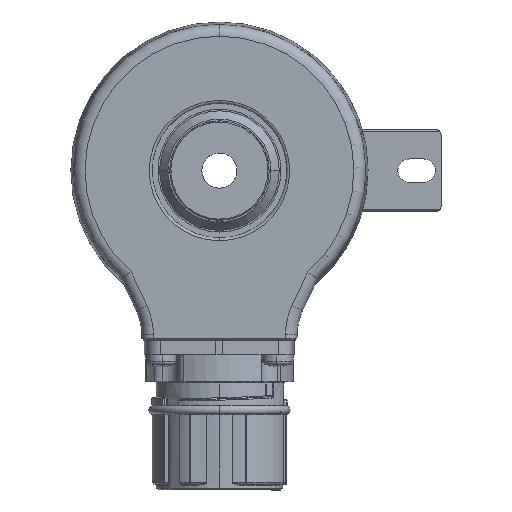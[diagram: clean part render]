
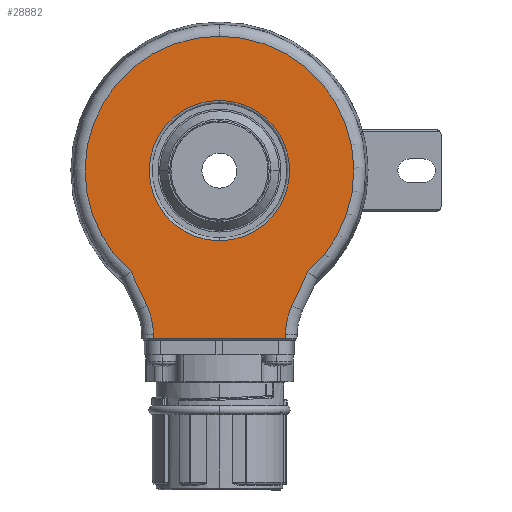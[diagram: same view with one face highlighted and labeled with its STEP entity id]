
A CAD part, left-side view. The second image highlights one B-rep face of the part: STEP entity #28882.
In plain terms, the highlighted planar face has unit normal (-1, 0, 0).
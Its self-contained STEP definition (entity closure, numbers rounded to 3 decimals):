
#15 = ORIENTED_EDGE ( 'NONE', *, *, #25581, .T. ) ;
#400 = EDGE_CURVE ( 'NONE', #38494, #48186, #31488, .T. ) ;
#973 = CARTESIAN_POINT ( 'NONE',  ( -21., -23.266, -28.183 ) ) ;
#1096 = DIRECTION ( 'NONE',  ( -1., 0., 0. ) ) ;
#1192 = EDGE_CURVE ( 'NONE', #16567, #17800, #36771, .T. ) ;
#1414 = ORIENTED_EDGE ( 'NONE', *, *, #46592, .T. ) ;
#1440 = CARTESIAN_POINT ( 'NONE',  ( -21., 12.39, -23.112 ) ) ;
#1693 = CIRCLE ( 'NONE', #46376, 22.972 ) ;
#3877 = CIRCLE ( 'NONE', #48546, 12. ) ;
#3884 = LINE ( 'NONE', #39598, #45905 ) ;
#4519 = AXIS2_PLACEMENT_3D ( 'NONE', #7194, #34069, #11064 ) ;
#4832 = DIRECTION ( 'NONE',  ( 0., 0., 1. ) ) ;
#5423 = VECTOR ( 'NONE', #9495, 1000. ) ;
#5999 = EDGE_CURVE ( 'NONE', #43744, #32332, #6132, .T. ) ;
#6132 = CIRCLE ( 'NONE', #4519, 12. ) ;
#6817 = AXIS2_PLACEMENT_3D ( 'NONE', #35812, #12839, #39676 ) ;
#7194 = CARTESIAN_POINT ( 'NONE',  ( -21., 0., 0. ) ) ;
#7618 = FACE_BOUND ( 'NONE', #13095, .T. ) ;
#8356 = ORIENTED_EDGE ( 'NONE', *, *, #27721, .T. ) ;
#8790 = CARTESIAN_POINT ( 'NONE',  ( -21., 0., -12. ) ) ;
#9201 = DIRECTION ( 'NONE',  ( 0., -0.423, 0.906 ) ) ;
#9495 = DIRECTION ( 'NONE',  ( 0., -0.017, 1. ) ) ;
#10245 = EDGE_CURVE ( 'NONE', #48186, #13479, #41906, .T. ) ;
#11064 = DIRECTION ( 'NONE',  ( 0., 0., 1. ) ) ;
#11113 = ORIENTED_EDGE ( 'NONE', *, *, #1192, .T. ) ;
#11402 = ORIENTED_EDGE ( 'NONE', *, *, #10245, .T. ) ;
#11422 = CARTESIAN_POINT ( 'NONE',  ( -21., 11.255, -28.695 ) ) ;
#12074 = CARTESIAN_POINT ( 'NONE',  ( -21., 15.091, -17.32 ) ) ;
#12839 = DIRECTION ( 'NONE',  ( 1., 0., 0. ) ) ;
#12907 = CARTESIAN_POINT ( 'NONE',  ( -21., -14.953, -17.615 ) ) ;
#13062 = CARTESIAN_POINT ( 'NONE',  ( -21., 11.268, -27.974 ) ) ;
#13095 = EDGE_LOOP ( 'NONE', ( #31130, #32549 ) ) ;
#13176 = VECTOR ( 'NONE', #9201, 1000. ) ;
#13422 = AXIS2_PLACEMENT_3D ( 'NONE', #21338, #48199, #25206 ) ;
#13479 = VERTEX_POINT ( 'NONE', #11422 ) ;
#13565 = CARTESIAN_POINT ( 'NONE',  ( -21., 0., 12. ) ) ;
#14569 = ORIENTED_EDGE ( 'NONE', *, *, #34613, .T. ) ;
#14797 = ORIENTED_EDGE ( 'NONE', *, *, #45972, .T. ) ;
#15055 = CARTESIAN_POINT ( 'NONE',  ( -21., -11.268, -27.974 ) ) ;
#15614 = LINE ( 'NONE', #28672, #5423 ) ;
#16288 = CARTESIAN_POINT ( 'NONE',  ( -21., -12.39, -23.112 ) ) ;
#16397 = EDGE_LOOP ( 'NONE', ( #11402, #14569, #1414, #18974, #15, #8356, #11113, #14797, #20762 ) ) ;
#16567 = VERTEX_POINT ( 'NONE', #21080 ) ;
#16620 = FACE_OUTER_BOUND ( 'NONE', #16397, .T. ) ;
#17800 = VERTEX_POINT ( 'NONE', #12074 ) ;
#18459 = CARTESIAN_POINT ( 'NONE',  ( -21., 23.266, -28.183 ) ) ;
#18545 = DIRECTION ( 'NONE',  ( 0., -1., 0. ) ) ;
#18728 = CARTESIAN_POINT ( 'NONE',  ( -21., 0., 0. ) ) ;
#18974 = ORIENTED_EDGE ( 'NONE', *, *, #37689, .T. ) ;
#20308 = VECTOR ( 'NONE', #18545, 1000. ) ;
#20762 = ORIENTED_EDGE ( 'NONE', *, *, #400, .T. ) ;
#20898 = CIRCLE ( 'NONE', #6817, 12. ) ;
#21080 = CARTESIAN_POINT ( 'NONE',  ( -21., 0., 22.972 ) ) ;
#21338 = CARTESIAN_POINT ( 'NONE',  ( -21., 0., 0. ) ) ;
#21509 = LINE ( 'NONE', #37681, #20308 ) ;
#22313 = DIRECTION ( 'NONE',  ( 0., 0., 1. ) ) ;
#22602 = DIRECTION ( 'NONE',  ( 1., 0., 0. ) ) ;
#24066 = CARTESIAN_POINT ( 'NONE',  ( -21., 0., 0. ) ) ;
#24599 = LINE ( 'NONE', #12907, #13176 ) ;
#25206 = DIRECTION ( 'NONE',  ( 0., 0., 1. ) ) ;
#25446 = VERTEX_POINT ( 'NONE', #27542 ) ;
#25581 = EDGE_CURVE ( 'NONE', #41054, #36188, #24599, .T. ) ;
#26181 = AXIS2_PLACEMENT_3D ( 'NONE', #18728, #22602, #49456 ) ;
#27482 = CARTESIAN_POINT ( 'NONE',  ( -21., -15.091, -17.32 ) ) ;
#27542 = CARTESIAN_POINT ( 'NONE',  ( -21., -11.255, -28.695 ) ) ;
#27721 = EDGE_CURVE ( 'NONE', #36188, #16567, #1693, .T. ) ;
#27762 = EDGE_CURVE ( 'NONE', #32332, #43744, #20898, .T. ) ;
#27835 = DIRECTION ( 'NONE',  ( 1., 0., 0. ) ) ;
#27976 = DIRECTION ( 'NONE',  ( 0., 0., 1. ) ) ;
#28672 = CARTESIAN_POINT ( 'NONE',  ( -21., -11.752, -0.205 ) ) ;
#28882 = ADVANCED_FACE ( 'NONE', ( #7618, #16620 ), #37701, .F. ) ;
#31130 = ORIENTED_EDGE ( 'NONE', *, *, #27762, .T. ) ;
#31488 = CIRCLE ( 'NONE', #31769, 12. ) ;
#31769 = AXIS2_PLACEMENT_3D ( 'NONE', #18459, #45315, #22313 ) ;
#32332 = VERTEX_POINT ( 'NONE', #13565 ) ;
#32549 = ORIENTED_EDGE ( 'NONE', *, *, #5999, .T. ) ;
#34069 = DIRECTION ( 'NONE',  ( 1., 0., 0. ) ) ;
#34613 = EDGE_CURVE ( 'NONE', #13479, #25446, #21509, .T. ) ;
#34855 = DIRECTION ( 'NONE',  ( 0., -0.017, -1. ) ) ;
#35812 = CARTESIAN_POINT ( 'NONE',  ( -21., 0., 0. ) ) ;
#36188 = VERTEX_POINT ( 'NONE', #27482 ) ;
#36771 = CIRCLE ( 'NONE', #13422, 22.972 ) ;
#37681 = CARTESIAN_POINT ( 'NONE',  ( -21., -11.25, -28.695 ) ) ;
#37689 = EDGE_CURVE ( 'NONE', #41782, #41054, #3877, .T. ) ;
#37701 = PLANE ( 'NONE',  #26181 ) ;
#38494 = VERTEX_POINT ( 'NONE', #1440 ) ;
#39598 = CARTESIAN_POINT ( 'NONE',  ( -21., 12.39, -23.112 ) ) ;
#39676 = DIRECTION ( 'NONE',  ( 0., 0., 1. ) ) ;
#40672 = VECTOR ( 'NONE', #34855, 1000. ) ;
#41054 = VERTEX_POINT ( 'NONE', #16288 ) ;
#41782 = VERTEX_POINT ( 'NONE', #15055 ) ;
#41906 = LINE ( 'NONE', #42577, #40672 ) ;
#42577 = CARTESIAN_POINT ( 'NONE',  ( -21., 11.752, -0.205 ) ) ;
#43454 = DIRECTION ( 'NONE',  ( 0., -0.423, -0.906 ) ) ;
#43744 = VERTEX_POINT ( 'NONE', #8790 ) ;
#45315 = DIRECTION ( 'NONE',  ( 1., 0., 0. ) ) ;
#45905 = VECTOR ( 'NONE', #43454, 1000. ) ;
#45972 = EDGE_CURVE ( 'NONE', #17800, #38494, #3884, .T. ) ;
#46376 = AXIS2_PLACEMENT_3D ( 'NONE', #24066, #1096, #27976 ) ;
#46592 = EDGE_CURVE ( 'NONE', #25446, #41782, #15614, .T. ) ;
#48186 = VERTEX_POINT ( 'NONE', #13062 ) ;
#48199 = DIRECTION ( 'NONE',  ( -1., 0., 0. ) ) ;
#48546 = AXIS2_PLACEMENT_3D ( 'NONE', #973, #27835, #4832 ) ;
#49456 = DIRECTION ( 'NONE',  ( 0., 0., 1. ) ) ;
